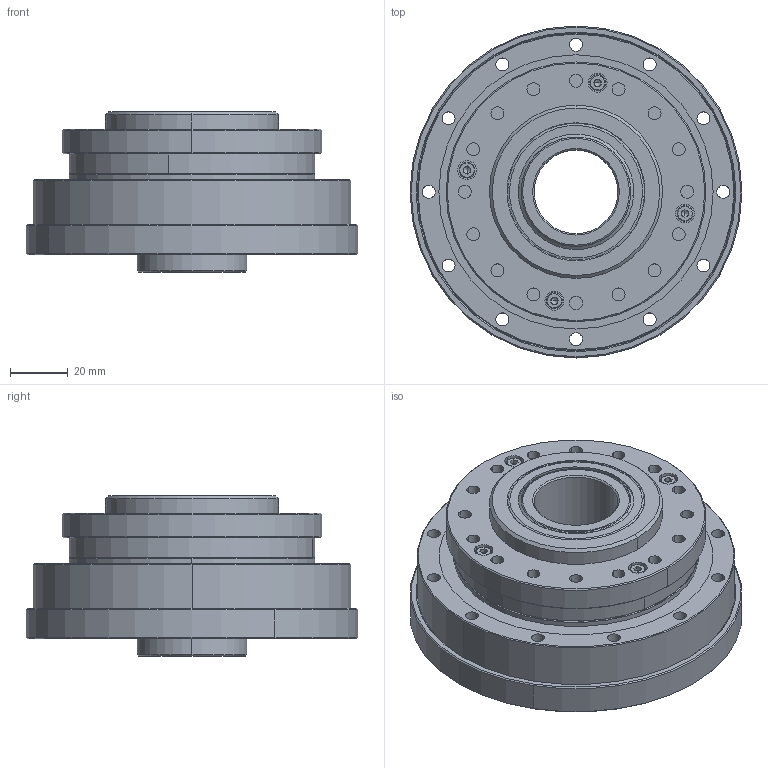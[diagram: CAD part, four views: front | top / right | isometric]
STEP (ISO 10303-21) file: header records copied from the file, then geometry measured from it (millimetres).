
FILE_DESCRIPTION (( 'STEP AP203' ), '1' );
FILE_NAME ('BHS-25-XXX-U-¢ó.STEP', '2019-01-15T03:58:29', ( 'User' ), ( 'China' ), 'SwSTEP 2.0', 'SolidWorks 2015', '' );
FILE_SCHEMA (( 'CONFIG_CONTROL_DESIGN' ));
Length unit declared in the file: millimetre
Products named in the file (1): BHS-25-XXX-U-ｋ
Bounding box: 115 x 115 x 55.5 mm (x, y, z)
Surface area: 54481.6 mm2 (no closed solid volume)
Topology: 0 solids, 21 shells, 311 faces, 856 edges, 534 vertices
Faces by surface type: cylinder 152, plane 81, cone 66, torus 12
Entity records: 9873 total; most frequent: DIRECTION 1906, CARTESIAN_POINT 1686, ORIENTED_EDGE 1420, EDGE_CURVE 840, AXIS2_PLACEMENT_3D 754, VERTEX_POINT 534, CIRCLE 442, VECTOR 398
